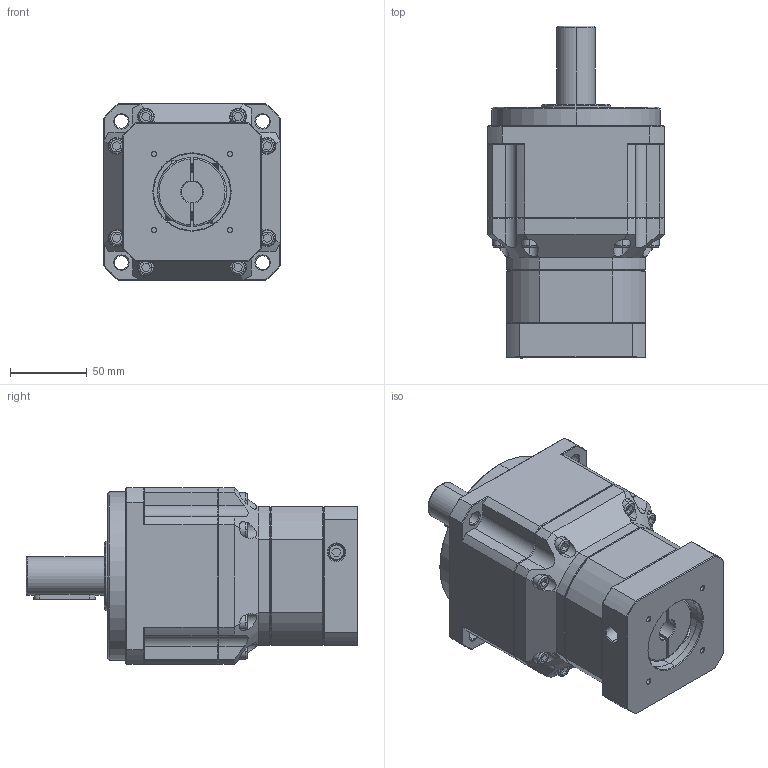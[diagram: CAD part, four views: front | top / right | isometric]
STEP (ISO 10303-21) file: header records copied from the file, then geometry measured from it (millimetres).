
FILE_DESCRIPTION (( 'STEP AP214' ), '1' );
FILE_NAME ('ZPB115-D25-L2-P1-14-50-70-M4.step', '2024-06-12T09:52:07', ( 'Windows 蚚誧' ), ( 'Organization' ), 'SwSTEP 2.0', 'SolidWorks 2016', '' );
FILE_SCHEMA (( 'AUTOMOTIVE_DESIGN' ));
Length unit declared in the file: millimetre
Products named in the file (1): ZPB115-D25-L2-P1-14-50-70-M4
Bounding box: 115 x 216 x 115 mm (x, y, z)
Surface area: 117609.5 mm2 (no closed solid volume)
Topology: 0 solids, 3 shells, 1755 faces, 4728 edges, 3077 vertices
Faces by surface type: plane 1019, bspline 399, cylinder 189, cone 148
Full cylindrical faces by diameter (mm): 10.2 x1
Entity records: 97033 total; most frequent: CARTESIAN_POINT 49693, ORIENTED_EDGE 9434, DIRECTION 6945, EDGE_CURVE 4726, LINE 3169, VECTOR 3169, VERTEX_POINT 3076, AXIS2_PLACEMENT_3D 1888
